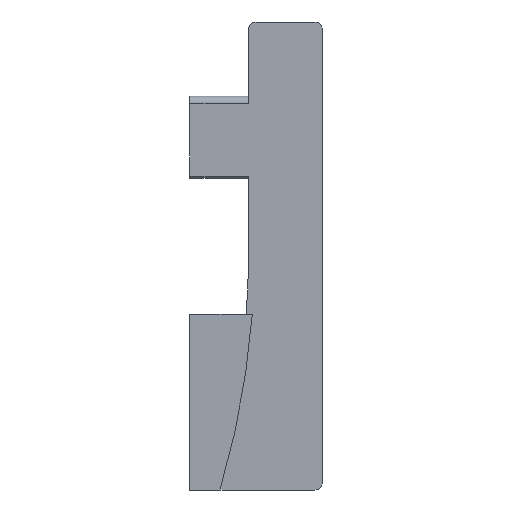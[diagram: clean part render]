
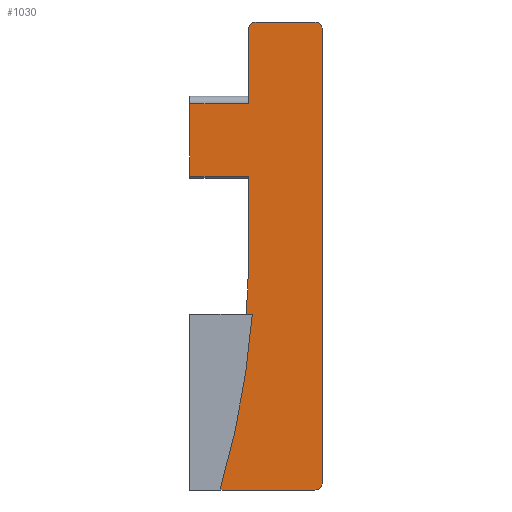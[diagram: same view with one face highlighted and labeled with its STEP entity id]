
A CAD part, front view. The second image highlights one B-rep face of the part: STEP entity #1030.
In plain terms, the highlighted planar face has unit normal (0, -1, 0).
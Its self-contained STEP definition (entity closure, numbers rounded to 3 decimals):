
#6 = CIRCLE ( 'NONE', #183, 3. ) ;
#10 = AXIS2_PLACEMENT_3D ( 'NONE', #488, #487, #486 ) ;
#39 = AXIS2_PLACEMENT_3D ( 'NONE', #742, #741, #740 ) ;
#79 = VECTOR ( 'NONE', #417, 1000. ) ;
#91 = AXIS2_PLACEMENT_3D ( 'NONE', #324, #301, #298 ) ;
#92 = VECTOR ( 'NONE', #399, 1000. ) ;
#95 = VECTOR ( 'NONE', #402, 1000. ) ;
#96 = VECTOR ( 'NONE', #551, 1000. ) ;
#107 = VECTOR ( 'NONE', #781, 1000. ) ;
#119 = VECTOR ( 'NONE', #493, 1000. ) ;
#120 = VECTOR ( 'NONE', #1375, 1000. ) ;
#125 = CIRCLE ( 'NONE', #10, 3. ) ;
#166 = CIRCLE ( 'NONE', #39, 3. ) ;
#183 = AXIS2_PLACEMENT_3D ( 'NONE', #614, #499, #611 ) ;
#206 = AXIS2_PLACEMENT_3D ( 'NONE', #714, #712, #711 ) ;
#210 = CIRCLE ( 'NONE', #259, 346. ) ;
#213 = VECTOR ( 'NONE', #462, 1000. ) ;
#230 = VECTOR ( 'NONE', #1866, 1000. ) ;
#246 = CIRCLE ( 'NONE', #206, 348.5 ) ;
#259 = AXIS2_PLACEMENT_3D ( 'NONE', #449, #448, #447 ) ;
#268 = CARTESIAN_POINT ( 'NONE',  ( 50.5, -2.5, 169.4 ) ) ;
#273 = CARTESIAN_POINT ( 'NONE',  ( 0., -2.5, 136.375 ) ) ;
#279 = CARTESIAN_POINT ( 'NONE',  ( 23.8, -2.5, 166.4 ) ) ;
#280 = CARTESIAN_POINT ( 'NONE',  ( 53.5, -2.5, -16.6 ) ) ;
#283 = CARTESIAN_POINT ( 'NONE',  ( 22.728, -2.5, 51.28 ) ) ;
#287 = CARTESIAN_POINT ( 'NONE',  ( 23.8, -2.5, 107.175 ) ) ;
#292 = CARTESIAN_POINT ( 'NONE',  ( 12.208, -2.5, -19.6 ) ) ;
#298 = DIRECTION ( 'NONE',  ( -1., 0., 0. ) ) ;
#301 = DIRECTION ( 'NONE',  ( 0., -1., 0. ) ) ;
#308 = FACE_OUTER_BOUND ( 'NONE', #1526, .T. ) ;
#323 = CARTESIAN_POINT ( 'NONE',  ( 25.235, -2.5, 51.28 ) ) ;
#324 = CARTESIAN_POINT ( 'NONE',  ( 11.5, -2.5, -19.6 ) ) ;
#330 = CARTESIAN_POINT ( 'NONE',  ( 23.8, -2.5, 136.375 ) ) ;
#359 = PLANE ( 'NONE',  #91 ) ;
#399 = DIRECTION ( 'NONE',  ( 1., 0., 0. ) ) ;
#400 = CARTESIAN_POINT ( 'NONE',  ( -36.045, -2.5, 107.175 ) ) ;
#401 = LINE ( 'NONE', #400, #92 ) ;
#402 = DIRECTION ( 'NONE',  ( 0., 0., -1. ) ) ;
#403 = CARTESIAN_POINT ( 'NONE',  ( 0., -2.5, 136.375 ) ) ;
#405 = LINE ( 'NONE', #403, #95 ) ;
#417 = DIRECTION ( 'NONE',  ( 1., 0., 0. ) ) ;
#418 = CARTESIAN_POINT ( 'NONE',  ( 25.235, -2.5, 51.28 ) ) ;
#419 = LINE ( 'NONE', #418, #79 ) ;
#447 = DIRECTION ( 'NONE',  ( -1., 0., 0. ) ) ;
#448 = DIRECTION ( 'NONE',  ( 0., 1., 0. ) ) ;
#449 = CARTESIAN_POINT ( 'NONE',  ( -322.2, -2.5, 78.5 ) ) ;
#462 = DIRECTION ( 'NONE',  ( 1., 0., 0. ) ) ;
#473 = LINE ( 'NONE', #491, #213 ) ;
#486 = DIRECTION ( 'NONE',  ( -1., 0., 0. ) ) ;
#487 = DIRECTION ( 'NONE',  ( 0., -1., 0. ) ) ;
#488 = CARTESIAN_POINT ( 'NONE',  ( 50.5, -2.5, 166.4 ) ) ;
#491 = CARTESIAN_POINT ( 'NONE',  ( -36.045, -2.5, 136.375 ) ) ;
#493 = DIRECTION ( 'NONE',  ( -1., 0., 0. ) ) ;
#494 = CARTESIAN_POINT ( 'NONE',  ( 26.8, -2.5, 169.4 ) ) ;
#496 = LINE ( 'NONE', #494, #119 ) ;
#499 = DIRECTION ( 'NONE',  ( 0., -1., 0. ) ) ;
#540 = CARTESIAN_POINT ( 'NONE',  ( 23.8, -2.5, 78.5 ) ) ;
#551 = DIRECTION ( 'NONE',  ( 0., 0., 1. ) ) ;
#553 = CARTESIAN_POINT ( 'NONE',  ( 53.5, -2.5, -16.6 ) ) ;
#556 = LINE ( 'NONE', #553, #96 ) ;
#561 = CARTESIAN_POINT ( 'NONE',  ( 50.5, -2.5, -19.6 ) ) ;
#611 = DIRECTION ( 'NONE',  ( -1., 0., 0. ) ) ;
#614 = CARTESIAN_POINT ( 'NONE',  ( 26.8, -2.5, 166.4 ) ) ;
#648 = CARTESIAN_POINT ( 'NONE',  ( 0., -2.5, 107.175 ) ) ;
#711 = DIRECTION ( 'NONE',  ( -1., 0., 0. ) ) ;
#712 = DIRECTION ( 'NONE',  ( 0., 1., 0. ) ) ;
#714 = CARTESIAN_POINT ( 'NONE',  ( -322.2, -2.5, 78.5 ) ) ;
#740 = DIRECTION ( 'NONE',  ( -1., 0., 0. ) ) ;
#741 = DIRECTION ( 'NONE',  ( 0., -1., 0. ) ) ;
#742 = CARTESIAN_POINT ( 'NONE',  ( 50.5, -2.5, -16.6 ) ) ;
#781 = DIRECTION ( 'NONE',  ( 1., 0., 0. ) ) ;
#784 = CARTESIAN_POINT ( 'NONE',  ( 50.5, -2.5, -19.6 ) ) ;
#808 = LINE ( 'NONE', #784, #107 ) ;
#863 = CARTESIAN_POINT ( 'NONE',  ( 53.5, -2.5, 166.4 ) ) ;
#896 = CARTESIAN_POINT ( 'NONE',  ( 26.8, -2.5, 169.4 ) ) ;
#954 = EDGE_CURVE ( 'NONE', #1479, #1171, #1305, .T. ) ;
#990 = EDGE_CURVE ( 'NONE', #1350, #1551, #1745, .T. ) ;
#1011 = EDGE_CURVE ( 'NONE', #1676, #1479, #6, .T. ) ;
#1030 = ADVANCED_FACE ( 'NONE', ( #308 ), #359, .T. ) ;
#1058 = EDGE_CURVE ( 'NONE', #1303, #1834, #808, .T. ) ;
#1067 = EDGE_CURVE ( 'NONE', #1834, #1445, #166, .T. ) ;
#1073 = EDGE_CURVE ( 'NONE', #1258, #1303, #246, .T. ) ;
#1103 = EDGE_CURVE ( 'NONE', #1445, #1568, #556, .T. ) ;
#1118 = EDGE_CURVE ( 'NONE', #1462, #1676, #496, .T. ) ;
#1119 = EDGE_CURVE ( 'NONE', #1568, #1462, #125, .T. ) ;
#1126 = EDGE_CURVE ( 'NONE', #1437, #1171, #473, .T. ) ;
#1129 = EDGE_CURVE ( 'NONE', #1551, #1381, #210, .T. ) ;
#1138 = EDGE_CURVE ( 'NONE', #1381, #1258, #419, .T. ) ;
#1142 = EDGE_CURVE ( 'NONE', #1437, #1521, #405, .T. ) ;
#1143 = EDGE_CURVE ( 'NONE', #1521, #1350, #401, .T. ) ;
#1171 = VERTEX_POINT ( 'NONE', #330 ) ;
#1190 = ORIENTED_EDGE ( 'NONE', *, *, #990, .T. ) ;
#1258 = VERTEX_POINT ( 'NONE', #323 ) ;
#1303 = VERTEX_POINT ( 'NONE', #292 ) ;
#1305 = LINE ( 'NONE', #1418, #230 ) ;
#1320 = ORIENTED_EDGE ( 'NONE', *, *, #1143, .T. ) ;
#1324 = ORIENTED_EDGE ( 'NONE', *, *, #1129, .T. ) ;
#1350 = VERTEX_POINT ( 'NONE', #287 ) ;
#1375 = DIRECTION ( 'NONE',  ( 0., 0., -1. ) ) ;
#1381 = VERTEX_POINT ( 'NONE', #283 ) ;
#1386 = CARTESIAN_POINT ( 'NONE',  ( 23.8, -2.5, 78.5 ) ) ;
#1418 = CARTESIAN_POINT ( 'NONE',  ( 23.8, -2.5, 78.5 ) ) ;
#1437 = VERTEX_POINT ( 'NONE', #273 ) ;
#1445 = VERTEX_POINT ( 'NONE', #280 ) ;
#1454 = ORIENTED_EDGE ( 'NONE', *, *, #1067, .T. ) ;
#1455 = ORIENTED_EDGE ( 'NONE', *, *, #1058, .T. ) ;
#1462 = VERTEX_POINT ( 'NONE', #268 ) ;
#1479 = VERTEX_POINT ( 'NONE', #279 ) ;
#1521 = VERTEX_POINT ( 'NONE', #648 ) ;
#1526 = EDGE_LOOP ( 'NONE', ( #1655, #1455, #1454, #1633, #1626, #1615, #1587, #1558, #1547, #1549, #1320, #1190, #1324, #1550 ) ) ;
#1547 = ORIENTED_EDGE ( 'NONE', *, *, #1126, .F. ) ;
#1549 = ORIENTED_EDGE ( 'NONE', *, *, #1142, .T. ) ;
#1550 = ORIENTED_EDGE ( 'NONE', *, *, #1138, .T. ) ;
#1551 = VERTEX_POINT ( 'NONE', #540 ) ;
#1558 = ORIENTED_EDGE ( 'NONE', *, *, #954, .T. ) ;
#1568 = VERTEX_POINT ( 'NONE', #863 ) ;
#1587 = ORIENTED_EDGE ( 'NONE', *, *, #1011, .T. ) ;
#1615 = ORIENTED_EDGE ( 'NONE', *, *, #1118, .T. ) ;
#1626 = ORIENTED_EDGE ( 'NONE', *, *, #1119, .T. ) ;
#1633 = ORIENTED_EDGE ( 'NONE', *, *, #1103, .T. ) ;
#1655 = ORIENTED_EDGE ( 'NONE', *, *, #1073, .T. ) ;
#1676 = VERTEX_POINT ( 'NONE', #896 ) ;
#1745 = LINE ( 'NONE', #1386, #120 ) ;
#1834 = VERTEX_POINT ( 'NONE', #561 ) ;
#1866 = DIRECTION ( 'NONE',  ( 0., 0., -1. ) ) ;
